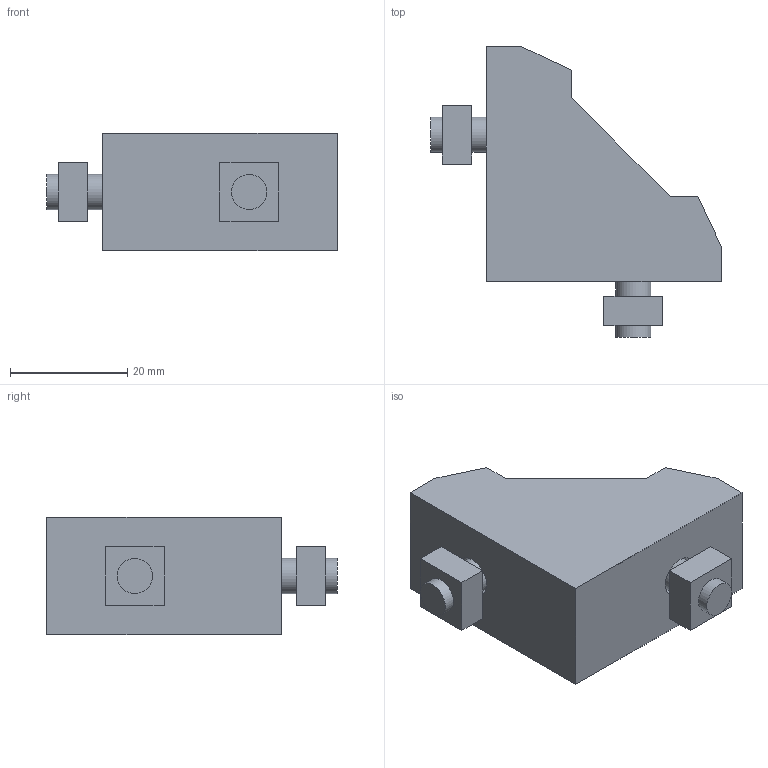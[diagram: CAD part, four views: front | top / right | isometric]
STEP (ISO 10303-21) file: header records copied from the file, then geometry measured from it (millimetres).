
FILE_DESCRIPTION((''),'2;1');
FILE_NAME('C:\Documents and Settings\古川典政\My Documents\Inventor\HP用\MasterData\BRACKET\M6\ABLD-30-6.stp','2008-07-31T09:19:27',(''),(''),'Autodesk Inventor 2008','Autodesk Inventor 2008','');
FILE_SCHEMA(('CONFIG_CONTROL_DESIGN'));
Length unit declared in the file: millimetre
Products named in the file (6): ABLD-30-6; ABLD-30-61; ABLD-30-62; ABLD-30-63; ABLD-30-64; ABLD-30-65
Assembly tree (5 placements, depth 2):
  ABLD-30-6
    ABLD-30-61
    ABLD-30-62
    ABLD-30-63
    ABLD-30-64
    ABLD-30-65
Bounding box: 49.5 x 49.5 x 20 mm (x, y, z)
Volume: 14413.4 mm3; surface area: 9235.8 mm2
Topology: 5 solids, 5 shells, 64 faces, 146 edges, 98 vertices
Faces by surface type: plane 54, cylinder 6, bspline 4
Full cylindrical faces by diameter (mm): 6 x2, 6.4 x2, 13 x2
Entity records: 1909 total; most frequent: CARTESIAN_POINT 365, DIRECTION 292, ORIENTED_EDGE 260, EDGE_CURVE 130, VECTOR 110, LINE 110, VERTEX_POINT 92, AXIS2_PLACEMENT_3D 91
